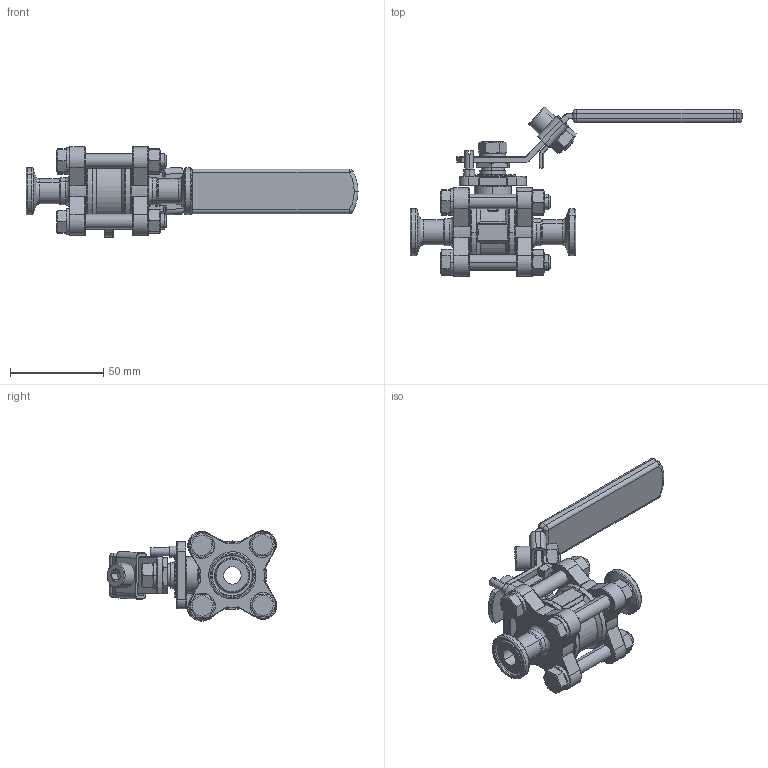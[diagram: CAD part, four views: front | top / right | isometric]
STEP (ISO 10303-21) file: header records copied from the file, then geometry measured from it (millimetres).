
FILE_DESCRIPTION (( 'STEP AP203' ), '1' );
FILE_NAME ('BAV-C-0.5.STEP', '2019-06-17T05:36:54', ( '' ), ( '' ), 'SwSTEP 2.0', 'SolidWorks 2014', '' );
FILE_SCHEMA (( 'CONFIG_CONTROL_DESIGN' ));
Length unit declared in the file: millimetre
Products named in the file (21): 2WAY-GASKET-0.5; 2WAY-BODY-0.5; 2WAY-THRUST WASHER-0.5-.75; 2WAY-HANDLE-0.5-.75-3-1; 2WAY-HANDLE WASHERS-C-0.5; 2WAY-HANDLE-0.5-.75-1; 2WAY-GLAND-0.5-.75; 2WAY-HANDLE-0.5-.75; 2WAY-BOLT NUT-0.5-.75; 2WAY-STEM PACKINGS-0.5-.75; 2WAY-BALL-0.5; 2WAY-STOP PIN-0.5-.75; 2WAY-HANDLE-0.5-.75-3; 2WAY-HANDLE-0.5-.75-2; 2WAY-CAP-C-0.5; BAV-C-0.5; 2WAY-STEM-0.5; 2WAY-BOLT WASHERS-0.5-.75; 2WAY-SEAT-0.5; 2WAY-BOLT-0.5; 2WAY-HANDLE NUT-0.5-.75
Assembly tree (32 placements, depth 2):
  BAV-C-0.5
    2WAY-BODY-0.5
    2WAY-BALL-0.5
    2WAY-GASKET-0.5  x2
    2WAY-SEAT-0.5  x2
    2WAY-BOLT-0.5  x4
    2WAY-CAP-C-0.5  x2
    2WAY-BOLT WASHERS-0.5-.75  x4
    2WAY-BOLT NUT-0.5-.75  x4
    2WAY-STEM-0.5
    2WAY-THRUST WASHER-0.5-.75
    2WAY-STEM PACKINGS-0.5-.75
    2WAY-GLAND-0.5-.75
    2WAY-HANDLE NUT-0.5-.75
    2WAY-HANDLE WASHERS-C-0.5
    2WAY-HANDLE-0.5-.75
    2WAY-HANDLE-0.5-.75-2
    2WAY-HANDLE-0.5-.75-3
    2WAY-HANDLE-0.5-.75-3-1
    2WAY-HANDLE-0.5-.75-1
    2WAY-STOP PIN-0.5-.75
Bounding box: 178.43 x 91.21 x 48.51 mm (x, y, z)
Volume: 102775.5 mm3; surface area: 70259.7 mm2
Topology: 32 solids, 32 shells, 1102 faces, 2466 edges, 1420 vertices
Faces by surface type: cylinder 381, plane 248, torus 217, cone 139, bspline 68, sphere 49
Entity records: 27316 total; most frequent: CARTESIAN_POINT 6143, DIRECTION 4272, ORIENTED_EDGE 3686, EDGE_CURVE 1843, AXIS2_PLACEMENT_3D 1825, VERTEX_POINT 1063, CIRCLE 1014, EDGE_LOOP 908
